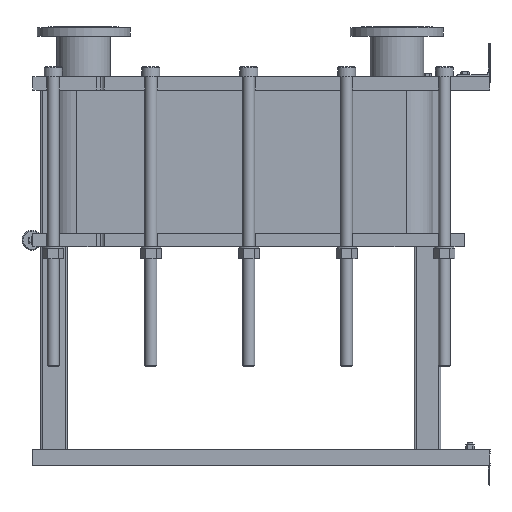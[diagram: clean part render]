
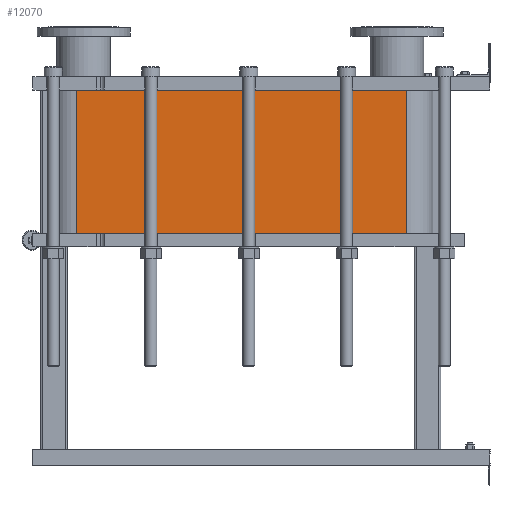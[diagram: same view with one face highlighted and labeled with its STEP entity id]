
A CAD part, left-side view. The second image highlights one B-rep face of the part: STEP entity #12070.
In plain terms, the highlighted planar face has unit normal (-1, 0, 0).
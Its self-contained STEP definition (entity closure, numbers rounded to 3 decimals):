
#1064=LINE('',#21140,#2164);
#1065=LINE('',#21144,#2165);
#1066=LINE('',#21146,#2166);
#1067=LINE('',#21147,#2167);
#2164=VECTOR('',#15790,10.);
#2165=VECTOR('',#15795,10.);
#2166=VECTOR('',#15796,10.);
#2167=VECTOR('',#15797,10.);
#3304=FACE_OUTER_BOUND('',#4091,.T.);
#4091=EDGE_LOOP('',(#9793,#9794,#9795,#9796));
#5677=VERTEX_POINT('',#21137);
#5678=VERTEX_POINT('',#21139);
#5679=VERTEX_POINT('',#21143);
#5680=VERTEX_POINT('',#21145);
#7118=EDGE_CURVE('',#5678,#5677,#1064,.T.);
#7120=EDGE_CURVE('',#5677,#5679,#1065,.T.);
#7121=EDGE_CURVE('',#5680,#5679,#1066,.T.);
#7122=EDGE_CURVE('',#5680,#5678,#1067,.T.);
#9793=ORIENTED_EDGE('',*,*,#7120,.T.);
#9794=ORIENTED_EDGE('',*,*,#7121,.F.);
#9795=ORIENTED_EDGE('',*,*,#7122,.T.);
#9796=ORIENTED_EDGE('',*,*,#7118,.T.);
#11441=PLANE('',#13191);
#12070=ADVANCED_FACE('',(#3304),#11441,.T.);
#13191=AXIS2_PLACEMENT_3D('',#21142,#15793,#15794);
#15790=DIRECTION('',(0.,0.,-1.));
#15793=DIRECTION('center_axis',(-1.,0.,0.));
#15794=DIRECTION('ref_axis',(0.,1.,0.));
#15795=DIRECTION('',(0.,-1.,0.));
#15796=DIRECTION('',(0.,0.,-1.));
#15797=DIRECTION('',(0.,1.,0.));
#21137=CARTESIAN_POINT('',(-248.152,1243.818,-431.25));
#21139=CARTESIAN_POINT('',(-248.152,1243.818,0.));
#21140=CARTESIAN_POINT('',(-248.152,1243.818,0.));
#21142=CARTESIAN_POINT('Origin',(-248.152,251.818,0.));
#21143=CARTESIAN_POINT('',(-248.152,251.818,-431.25));
#21144=CARTESIAN_POINT('',(-248.152,499.818,-431.25));
#21145=CARTESIAN_POINT('',(-248.152,251.818,0.));
#21146=CARTESIAN_POINT('',(-248.152,251.818,0.));
#21147=CARTESIAN_POINT('',(-248.152,251.818,0.));
